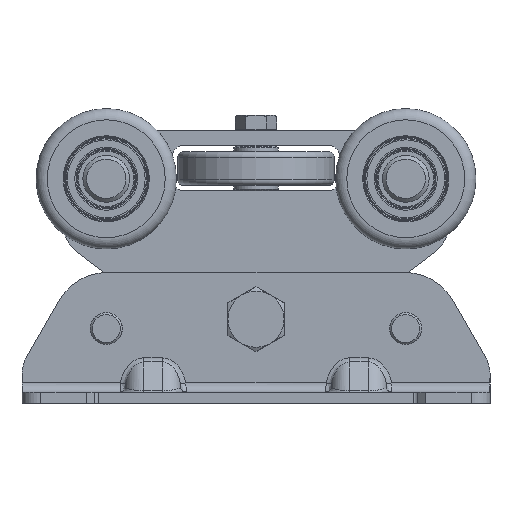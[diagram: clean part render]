
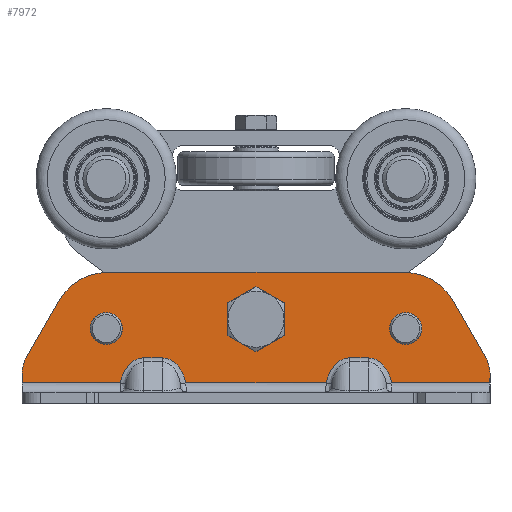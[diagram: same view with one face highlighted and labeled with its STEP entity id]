
A CAD part, left-side view. The second image highlights one B-rep face of the part: STEP entity #7972.
In plain terms, the highlighted planar face has unit normal (-1, 0, 0) as drawn and (0, -1, 0) by its records, which use the part's own axes.
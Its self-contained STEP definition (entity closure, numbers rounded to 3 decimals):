
#554=ELLIPSE('',#9430,18.385,13.);
#555=ELLIPSE('',#9433,18.385,13.);
#558=ELLIPSE('',#9439,18.385,13.);
#559=ELLIPSE('',#9442,18.385,13.);
#643=CIRCLE('',#9412,8.55);
#645=CIRCLE('',#9415,10.05);
#647=CIRCLE('',#9418,8.55);
#649=CIRCLE('',#9421,30.);
#651=CIRCLE('',#9425,9.);
#661=CIRCLE('',#9448,9.);
#662=CIRCLE('',#9451,30.);
#670=CIRCLE('',#9469,10.);
#676=CIRCLE('',#9486,10.);
#1077=LINE('',#14639,#1492);
#1081=LINE('',#14651,#1496);
#1082=LINE('',#14763,#1497);
#1084=LINE('',#14920,#1499);
#1089=LINE('',#14974,#1504);
#1091=LINE('',#14982,#1506);
#1096=LINE('',#14995,#1511);
#1115=LINE('',#15991,#1530);
#1116=LINE('',#15993,#1531);
#1117=LINE('',#15994,#1532);
#1118=LINE('',#15995,#1533);
#1119=LINE('',#15997,#1534);
#1492=VECTOR('',#10658,1000.);
#1496=VECTOR('',#10670,1000.);
#1497=VECTOR('',#10681,1000.);
#1499=VECTOR('',#10701,1000.);
#1504=VECTOR('',#10716,1000.);
#1506=VECTOR('',#10726,1000.);
#1511=VECTOR('',#10739,1000.);
#1530=VECTOR('',#10832,1000.);
#1531=VECTOR('',#10833,1000.);
#1532=VECTOR('',#10834,1000.);
#1533=VECTOR('',#10835,1000.);
#1534=VECTOR('',#10836,1000.);
#2547=ORIENTED_EDGE('',*,*,#4369,.F.);
#2548=ORIENTED_EDGE('',*,*,#4365,.F.);
#2549=ORIENTED_EDGE('',*,*,#4362,.T.);
#2550=ORIENTED_EDGE('',*,*,#4361,.F.);
#2551=ORIENTED_EDGE('',*,*,#4358,.T.);
#2552=ORIENTED_EDGE('',*,*,#4387,.F.);
#2553=ORIENTED_EDGE('',*,*,#4418,.F.);
#2554=ORIENTED_EDGE('',*,*,#4419,.F.);
#2555=ORIENTED_EDGE('',*,*,#4352,.T.);
#2556=ORIENTED_EDGE('',*,*,#4349,.T.);
#2557=ORIENTED_EDGE('',*,*,#4348,.T.);
#2558=ORIENTED_EDGE('',*,*,#4420,.F.);
#2559=ORIENTED_EDGE('',*,*,#4342,.T.);
#2560=ORIENTED_EDGE('',*,*,#4339,.T.);
#2561=ORIENTED_EDGE('',*,*,#4338,.T.);
#2562=ORIENTED_EDGE('',*,*,#4421,.F.);
#2563=ORIENTED_EDGE('',*,*,#4422,.T.);
#2564=ORIENTED_EDGE('',*,*,#4412,.F.);
#2565=ORIENTED_EDGE('',*,*,#4334,.T.);
#2566=ORIENTED_EDGE('',*,*,#4331,.F.);
#2567=ORIENTED_EDGE('',*,*,#4328,.T.);
#2568=ORIENTED_EDGE('',*,*,#4325,.F.);
#2569=ORIENTED_EDGE('',*,*,#4321,.T.);
#2570=ORIENTED_EDGE('',*,*,#4319,.T.);
#2571=ORIENTED_EDGE('',*,*,#4317,.T.);
#4317=EDGE_CURVE('',#5326,#5326,#643,.T.);
#4319=EDGE_CURVE('',#5328,#5328,#645,.T.);
#4321=EDGE_CURVE('',#5330,#5330,#647,.T.);
#4325=EDGE_CURVE('',#5334,#5332,#649,.T.);
#4328=EDGE_CURVE('',#5336,#5332,#1077,.T.);
#4331=EDGE_CURVE('',#5336,#5338,#651,.T.);
#4334=EDGE_CURVE('',#5340,#5338,#1081,.T.);
#4338=EDGE_CURVE('',#5342,#5344,#554,.T.);
#4339=EDGE_CURVE('',#5345,#5342,#1082,.T.);
#4342=EDGE_CURVE('',#5347,#5345,#555,.T.);
#4348=EDGE_CURVE('',#5350,#5352,#558,.T.);
#4349=EDGE_CURVE('',#5353,#5350,#1084,.T.);
#4352=EDGE_CURVE('',#5355,#5353,#559,.T.);
#4358=EDGE_CURVE('',#5358,#5360,#1089,.T.);
#4361=EDGE_CURVE('',#5358,#5362,#661,.T.);
#4362=EDGE_CURVE('',#5363,#5362,#1091,.T.);
#4365=EDGE_CURVE('',#5363,#5365,#662,.T.);
#4369=EDGE_CURVE('',#5365,#5334,#1096,.T.);
#4387=EDGE_CURVE('',#5374,#5360,#670,.T.);
#4412=EDGE_CURVE('',#5340,#5384,#676,.T.);
#4418=EDGE_CURVE('',#5387,#5374,#1115,.T.);
#4419=EDGE_CURVE('',#5355,#5387,#1116,.T.);
#4420=EDGE_CURVE('',#5347,#5352,#1117,.T.);
#4421=EDGE_CURVE('',#5388,#5344,#1118,.T.);
#4422=EDGE_CURVE('',#5388,#5384,#1119,.T.);
#5326=VERTEX_POINT('',#14614);
#5328=VERTEX_POINT('',#14619);
#5330=VERTEX_POINT('',#14624);
#5332=VERTEX_POINT('',#14628);
#5334=VERTEX_POINT('',#14632);
#5336=VERTEX_POINT('',#14637);
#5338=VERTEX_POINT('',#14643);
#5340=VERTEX_POINT('',#14649);
#5342=VERTEX_POINT('',#14756);
#5344=VERTEX_POINT('',#14760);
#5345=VERTEX_POINT('',#14764);
#5347=VERTEX_POINT('',#14805);
#5350=VERTEX_POINT('',#14913);
#5352=VERTEX_POINT('',#14917);
#5353=VERTEX_POINT('',#14921);
#5355=VERTEX_POINT('',#14962);
#5358=VERTEX_POINT('',#14969);
#5360=VERTEX_POINT('',#14973);
#5362=VERTEX_POINT('',#14978);
#5363=VERTEX_POINT('',#14983);
#5365=VERTEX_POINT('',#14989);
#5374=VERTEX_POINT('',#15265);
#5384=VERTEX_POINT('',#15978);
#5387=VERTEX_POINT('',#15992);
#5388=VERTEX_POINT('',#15996);
#6273=EDGE_LOOP('',(#2547,#2548,#2549,#2550,#2551,#2552,#2553,#2554,#2555,
#2556,#2557,#2558,#2559,#2560,#2561,#2562,#2563,#2564,#2565,#2566,#2567,
#2568));
#6274=EDGE_LOOP('',(#2569));
#6275=EDGE_LOOP('',(#2570));
#6276=EDGE_LOOP('',(#2571));
#7009=FACE_BOUND('',#6273,.T.);
#7010=FACE_BOUND('',#6274,.T.);
#7011=FACE_BOUND('',#6275,.T.);
#7012=FACE_BOUND('',#6276,.T.);
#7636=PLANE('',#9490);
#7972=ADVANCED_FACE('',(#7009,#7010,#7011,#7012),#7636,.F.);
#9412=AXIS2_PLACEMENT_3D('',#14613,#10632,#10633);
#9415=AXIS2_PLACEMENT_3D('',#14618,#10638,#10639);
#9418=AXIS2_PLACEMENT_3D('',#14623,#10644,#10645);
#9421=AXIS2_PLACEMENT_3D('',#14633,#10652,#10653);
#9425=AXIS2_PLACEMENT_3D('',#14645,#10664,#10665);
#9430=AXIS2_PLACEMENT_3D('',#14761,#10677,#10678);
#9433=AXIS2_PLACEMENT_3D('',#14804,#10685,#10686);
#9439=AXIS2_PLACEMENT_3D('',#14918,#10697,#10698);
#9442=AXIS2_PLACEMENT_3D('',#14961,#10705,#10706);
#9448=AXIS2_PLACEMENT_3D('',#14980,#10722,#10723);
#9451=AXIS2_PLACEMENT_3D('',#14988,#10731,#10732);
#9469=AXIS2_PLACEMENT_3D('',#15266,#10777,#10778);
#9486=AXIS2_PLACEMENT_3D('',#15980,#10818,#10819);
#9490=AXIS2_PLACEMENT_3D('',#15990,#10830,#10831);
#10632=DIRECTION('',(0.,1.,0.));
#10633=DIRECTION('',(-1.,0.,0.));
#10638=DIRECTION('',(0.,1.,0.));
#10639=DIRECTION('',(-1.,0.,0.));
#10644=DIRECTION('',(0.,1.,0.));
#10645=DIRECTION('',(-1.,0.,0.));
#10652=DIRECTION('',(0.,1.,0.));
#10653=DIRECTION('',(-1.,0.,0.));
#10658=DIRECTION('',(-0.5,0.,0.866));
#10664=DIRECTION('',(0.,1.,0.));
#10665=DIRECTION('',(-1.,0.,0.));
#10670=DIRECTION('',(-0.259,0.,0.966));
#10677=DIRECTION('',(0.,1.,0.));
#10678=DIRECTION('',(0.,0.,1.));
#10681=DIRECTION('',(1.,0.,0.));
#10685=DIRECTION('',(0.,1.,0.));
#10686=DIRECTION('',(0.,0.,1.));
#10697=DIRECTION('',(0.,1.,0.));
#10698=DIRECTION('',(0.,0.,1.));
#10701=DIRECTION('',(1.,0.,0.));
#10705=DIRECTION('',(0.,1.,0.));
#10706=DIRECTION('',(0.,0.,1.));
#10716=DIRECTION('',(-0.259,0.,-0.966));
#10722=DIRECTION('',(0.,1.,0.));
#10723=DIRECTION('',(-1.,0.,0.));
#10726=DIRECTION('',(-0.5,0.,-0.866));
#10731=DIRECTION('',(0.,1.,0.));
#10732=DIRECTION('',(-1.,0.,0.));
#10739=DIRECTION('',(1.,0.,0.));
#10777=DIRECTION('',(0.,1.,0.));
#10778=DIRECTION('',(-1.,0.,0.));
#10818=DIRECTION('',(0.,1.,0.));
#10819=DIRECTION('',(-1.,0.,0.));
#10830=DIRECTION('',(0.,1.,0.));
#10831=DIRECTION('',(0.,0.,1.));
#10832=DIRECTION('',(0.,0.,1.));
#10833=DIRECTION('',(-1.,0.,0.));
#10834=DIRECTION('',(-1.,0.,0.));
#10835=DIRECTION('',(-1.,0.,0.));
#10836=DIRECTION('',(0.,0.,1.));
#14613=CARTESIAN_POINT('',(80.,59.,40.));
#14614=CARTESIAN_POINT('',(71.45,59.,40.));
#14618=CARTESIAN_POINT('',(0.,59.,45.));
#14619=CARTESIAN_POINT('',(-10.05,59.,45.));
#14623=CARTESIAN_POINT('',(-80.,59.,40.));
#14624=CARTESIAN_POINT('',(-88.55,59.,40.));
#14628=CARTESIAN_POINT('',(105.185,59.,55.));
#14632=CARTESIAN_POINT('',(79.204,59.,70.));
#14633=CARTESIAN_POINT('',(79.204,59.,40.));
#14637=CARTESIAN_POINT('',(122.794,59.,24.5));
#14639=CARTESIAN_POINT('',(64.526,59.,125.423));
#14643=CARTESIAN_POINT('',(123.693,59.,22.329));
#14645=CARTESIAN_POINT('',(115.,59.,20.));
#14649=CARTESIAN_POINT('',(124.659,59.,18.724));
#14651=CARTESIAN_POINT('',(112.281,59.,64.919));
#14756=CARTESIAN_POINT('',(60.,59.,24.314));
#14760=CARTESIAN_POINT('',(72.496,59.,11.));
#14761=CARTESIAN_POINT('',(60.,59.,5.929));
#14763=CARTESIAN_POINT('',(-125.,59.,24.314));
#14764=CARTESIAN_POINT('',(50.,59.,24.314));
#14804=CARTESIAN_POINT('',(50.,59.,5.929));
#14805=CARTESIAN_POINT('',(37.504,59.,11.));
#14913=CARTESIAN_POINT('',(-50.,59.,24.314));
#14917=CARTESIAN_POINT('',(-37.504,59.,11.));
#14918=CARTESIAN_POINT('',(-50.,59.,5.929));
#14920=CARTESIAN_POINT('',(-125.,59.,24.314));
#14921=CARTESIAN_POINT('',(-60.,59.,24.314));
#14961=CARTESIAN_POINT('',(-60.,59.,5.929));
#14962=CARTESIAN_POINT('',(-72.496,59.,11.));
#14969=CARTESIAN_POINT('',(-123.693,59.,22.329));
#14973=CARTESIAN_POINT('',(-124.659,59.,18.724));
#14974=CARTESIAN_POINT('',(-129.028,59.,2.419));
#14978=CARTESIAN_POINT('',(-122.794,59.,24.5));
#14980=CARTESIAN_POINT('',(-115.,59.,20.));
#14982=CARTESIAN_POINT('',(-127.026,59.,17.17));
#14983=CARTESIAN_POINT('',(-105.185,59.,55.));
#14988=CARTESIAN_POINT('',(-79.204,59.,40.));
#14989=CARTESIAN_POINT('',(-79.204,59.,70.));
#14995=CARTESIAN_POINT('',(-125.,59.,70.));
#15265=CARTESIAN_POINT('',(-125.,59.,16.136));
#15266=CARTESIAN_POINT('',(-115.,59.,16.136));
#15978=CARTESIAN_POINT('',(125.,59.,16.136));
#15980=CARTESIAN_POINT('',(115.,59.,16.136));
#15990=CARTESIAN_POINT('',(-125.,59.,14.));
#15991=CARTESIAN_POINT('',(-125.,59.,14.));
#15992=CARTESIAN_POINT('',(-125.,59.,11.));
#15993=CARTESIAN_POINT('',(130.,59.,11.));
#15994=CARTESIAN_POINT('',(130.,59.,11.));
#15995=CARTESIAN_POINT('',(130.,59.,11.));
#15996=CARTESIAN_POINT('',(125.,59.,11.));
#15997=CARTESIAN_POINT('',(125.,59.,14.));
